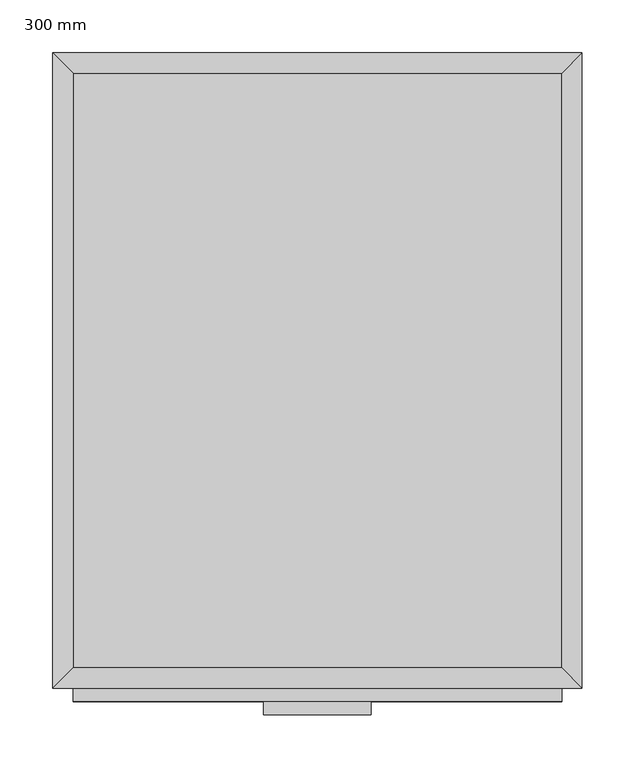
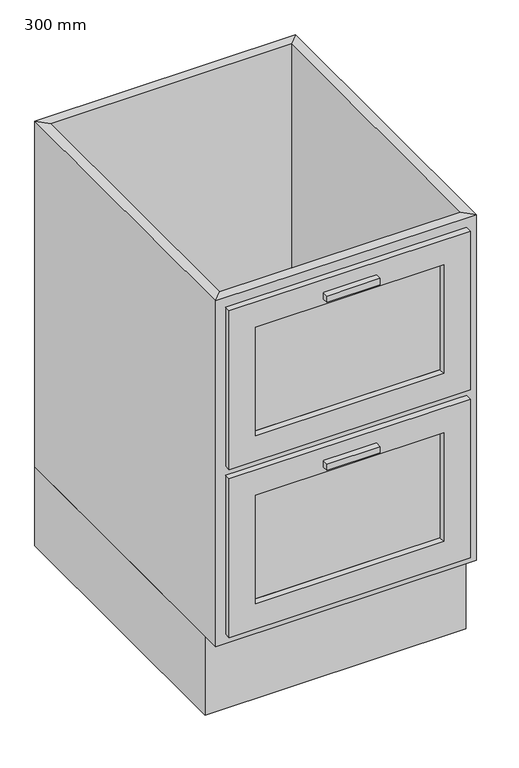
"""IFC4 building model written with IfcOpenShell, lengths in millimetres: furniture geometry, Armario base-2 cubos : 300 mm."""

from ifc_helpers import new_model, si_unit, frame, origin, origin_with_axes, place, context, project, spatial, polyline, outline, extrude, faceted_brep, source, transform, mapped, element, save


def furniture_300_mm_86855b35(model_context):
    return source(origin(), model_context, "Body", "SolidModel", [
        extrude(outline(polyline([(198.8877049, -600.0), (-161.4122951, -600.0), (-161.4122951, -580.95), (198.8877049, -580.95), (198.8877049, -600.0)])), frame((0.0, 0.0, 570.325), z_axis=(0.0, 0.0, 1.0), x_axis=(1.0, 0.0, 0.0)), (0.0, 0.0, 1.0), 219.825),
        extrude(outline(polyline([(198.8877049, -600.0), (-161.4122951, -600.0), (-161.4122951, -580.95), (198.8877049, -580.95), (198.8877049, -600.0)])), frame((0.0, 0.0, 229.85), z_axis=(0.0, 0.0, 1.0), x_axis=(1.0, 0.0, 0.0)), (0.0, 0.0, 1.0), 219.825),
        extrude(outline(polyline([(249.6877049, -19.05), (249.6877049, -580.95), (-212.2122951, -580.95), (-212.2122951, -19.05), (249.6877049, -19.05)])), frame((0.0, 0.0, 160.0), z_axis=(0.0, 0.0, 1.0), x_axis=(1.0, 0.0, 0.0)), (0.0, 0.0, 1.0), 19.05),
        faceted_brep([(249.6877049, -580.95, 860.0), (249.6877049, -580.95, 160.0), (-212.2122951, -580.95, 160.0), (-212.2122951, -580.95, 860.0), (198.8877049, -580.95, 570.325), (198.8877049, -580.95, 790.15), (-161.4122951, -580.95, 790.15), (-161.4122951, -580.95, 570.325), (198.8877049, -580.95, 229.85), (198.8877049, -580.95, 449.675), (-161.4122951, -580.95, 449.675), (-161.4122951, -580.95, 229.85), (-231.2622951, -600.0, 860.0), (268.7377049, -600.0, 860.0), (-231.2622951, -600.0, 160.0), (268.7377049, -600.0, 160.0), (198.8877049, -600.0, 790.15), (198.8877049, -600.0, 570.325), (-161.4122951, -600.0, 570.325), (-161.4122951, -600.0, 790.15), (198.8877049, -600.0, 449.675), (198.8877049, -600.0, 229.85), (-161.4122951, -600.0, 229.85), (-161.4122951, -600.0, 449.675), (-212.2122951, -19.05, 160.0), (-212.2122951, -19.05, 860.0), (-231.2622951, 0.0, 860.0), (-231.2622951, 0.0, 160.0), (249.6877049, -19.05, 160.0), (249.6877049, -19.05, 860.0), (268.7377049, 0.0, 860.0), (268.7377049, 0.0, 160.0)], [[[0, 1, 2, 3], [4, 5, 6, 7], [8, 9, 10, 11]], [[0, 3, 12, 13]], [[13, 12, 14, 15], [16, 17, 18, 19], [20, 21, 22, 23]], [[2, 1, 15, 14]], [[3, 2, 24, 25]], [[12, 3, 25, 26]], [[14, 12, 26, 27]], [[2, 14, 27, 24]], [[25, 24, 28, 29]], [[26, 25, 29, 30]], [[27, 26, 30, 31]], [[24, 27, 31, 28]], [[1, 0, 29, 28]], [[0, 13, 30, 29]], [[13, 15, 31, 30]], [[15, 1, 28, 31]], [[4, 17, 16, 5]], [[17, 4, 7, 18]], [[18, 7, 6, 19]], [[5, 16, 19, 6]], [[8, 21, 20, 9]], [[21, 8, 11, 22]], [[22, 11, 10, 23]], [[9, 20, 23, 10]]]),
        extrude(outline(polyline([(268.7377049, 0.0), (268.7377049, -565.0), (-231.2622951, -565.0), (-231.2622951, 0.0), (268.7377049, 0.0)])), origin_with_axes(), (0.0, 0.0, 1.0), 160.0),
        extrude(outline(polyline([(840.95, 249.6877049), (840.95, -212.2122951), (519.525, -212.2122951), (519.525, 249.6877049), (840.95, 249.6877049)]), holes=[polyline([(790.15, 198.8877049), (570.325, 198.8877049), (570.325, -161.4122951), (790.15, -161.4122951), (790.15, 198.8877049)])]), frame((0.0, -612.7, 0.0), z_axis=(0.0, 1.0, 0.0), x_axis=(0.0, 0.0, 1.0)), (0.0, 0.0, 1.0), 12.7),
        extrude(outline(polyline([(500.475, 249.6877049), (500.475, -212.2122951), (179.05, -212.2122951), (179.05, 249.6877049), (500.475, 249.6877049)]), holes=[polyline([(449.675, 198.8877049), (229.85, 198.8877049), (229.85, -161.4122951), (449.675, -161.4122951), (449.675, 198.8877049)])]), frame((0.0, -612.7, 0.0), z_axis=(0.0, 1.0, 0.0), x_axis=(0.0, 0.0, 1.0)), (0.0, 0.0, 1.0), 12.7),
        extrude(outline(polyline([(69.5377049, -625.4), (-32.0622951, -625.4), (-32.0622951, -612.7), (69.5377049, -612.7), (69.5377049, -625.4)])), frame((0.0, 0.0, 802.85), z_axis=(0.0, 0.0, 1.0), x_axis=(1.0, 0.0, 0.0)), (0.0, 0.0, 1.0), 12.7),
        extrude(outline(polyline([(69.5377049, -625.4), (-32.0622951, -625.4), (-32.0622951, -612.7), (69.5377049, -612.7), (69.5377049, -625.4)])), frame((0.0, 0.0, 462.375), z_axis=(0.0, 0.0, 1.0), x_axis=(1.0, 0.0, 0.0)), (0.0, 0.0, 1.0), 12.7),
    ])


if __name__ == "__main__":
    model = new_model("IFC4")
    model_context = context("Model", 3, world=origin())
    ifc_project = project(units=[si_unit("LENGTHUNIT", "METRE", prefix="MILLI")], contexts=[model_context])
    site = spatial("IfcSite", under=ifc_project)
    building = spatial("IfcBuilding", under=site)
    placement = place(None, origin())
    furniture_300_mm_shape = furniture_300_mm_86855b35(model_context)
    element("IfcFurniture", 1, ObjectType="Armario base-2 cubos : 300 mm", at=placement, inside=building, context=model_context, shape_type="MappedRepresentation", body=[
        mapped(furniture_300_mm_shape, transform((0.0, 0.0, 0.0), x_axis=(1.0, 0.0, 0.0), y_axis=(0.0, 1.0, 0.0), z_axis=(0.0, 0.0, 1.0))),
    ])
    save(model, "model.ifc")
